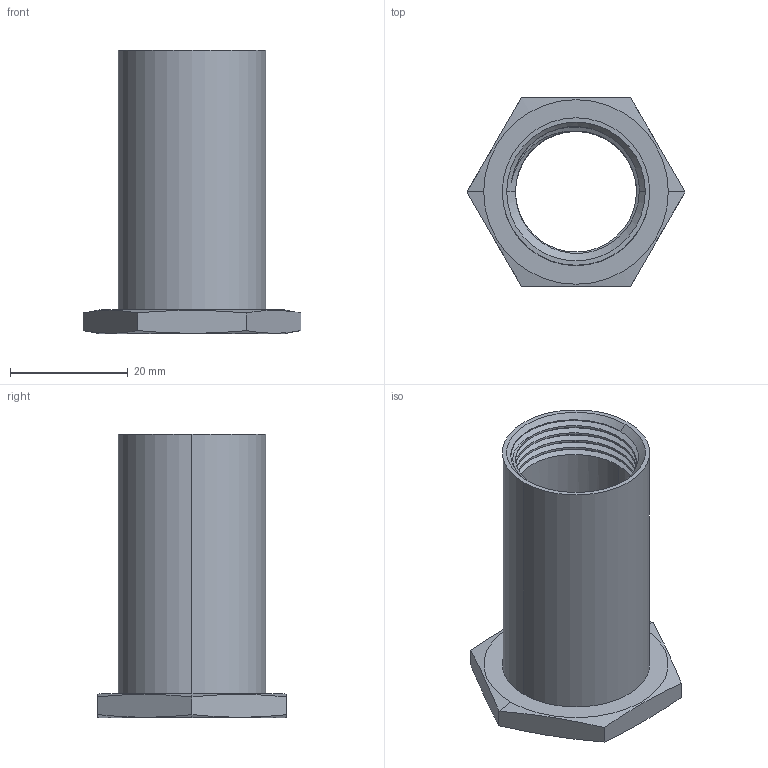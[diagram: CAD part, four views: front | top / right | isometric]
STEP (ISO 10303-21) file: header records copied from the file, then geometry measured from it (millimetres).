
FILE_DESCRIPTION (( 'STEP AP214' ), '1' );
FILE_NAME ('2.TDV2.006.STEP', '2024-07-11T15:03:18', ( '' ), ( '' ), 'SwSTEP 2.0', 'SolidWorks 2021', '' );
FILE_SCHEMA (( 'AUTOMOTIVE_DESIGN' ));
Length unit declared in the file: millimetre
Products named in the file (1): 2.TDV2.006
Bounding box: 36.95 x 32 x 48 mm (x, y, z)
Volume: 8965.6 mm3; surface area: 8229 mm2
Topology: 1 solids, 1 shells, 32 faces, 91 edges, 62 vertices
Faces by surface type: cylinder 11, plane 10, cone 8, bspline 3
Entity records: 1904 total; most frequent: CARTESIAN_POINT 1145, ORIENTED_EDGE 182, DIRECTION 116, EDGE_CURVE 91, VERTEX_POINT 62, AXIS2_PLACEMENT_3D 45, EDGE_LOOP 35, ADVANCED_FACE 32
